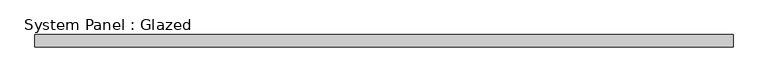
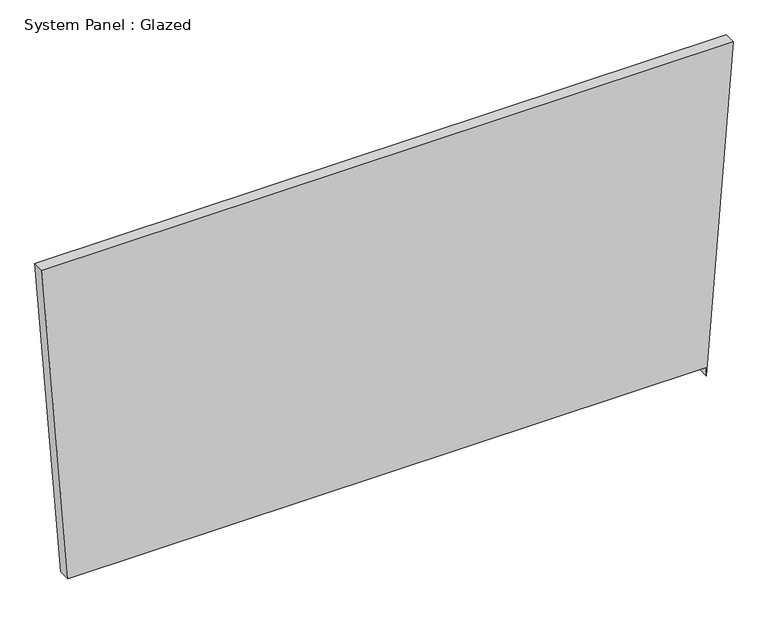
"""IFC4 building model written with IfcOpenShell, lengths in millimetres: plate geometry, System Panel : Glazed."""

from ifc_helpers import new_model, si_unit, frame, origin, place, context, project, spatial, polyline, outline, extrude, source, transform, mapped, element, save


def system_panel_glazed_e1973138(model_context):
    return source(origin(), model_context, "Body", "SweptSolid", [
        extrude(outline(polyline([(19.05, 669.6806334), (0.0, 669.6805227), (722.7381834, 725.7755613), (722.7387301, -725.7755613), (19.0577937, -671.1596434), (19.05, 669.6806334)])), frame((0.0, 19.05, 0.0), z_axis=(0.0, 1.0, 0.0), x_axis=(0.0, 0.0, 1.0)), (0.0, 0.0, 1.0), 25.4),
    ])


if __name__ == "__main__":
    model = new_model("IFC4")
    model_context = context("Model", 3, world=origin())
    ifc_project = project(units=[si_unit("LENGTHUNIT", "METRE", prefix="MILLI")], contexts=[model_context])
    site = spatial("IfcSite", under=ifc_project)
    building = spatial("IfcBuilding", under=site)
    placement = place(None, origin())
    system_panel_glazed_shape = system_panel_glazed_e1973138(model_context)
    element("IfcPlate", 1, ObjectType="System Panel : Glazed", at=placement, inside=building, context=model_context, shape_type="MappedRepresentation", body=[
        mapped(system_panel_glazed_shape, transform((0.0, 0.0, 0.0), x_axis=(1.0, 0.0, 0.0), y_axis=(0.0, 1.0, 0.0), z_axis=(0.0, 0.0, 1.0))),
    ])
    save(model, "model.ifc")
